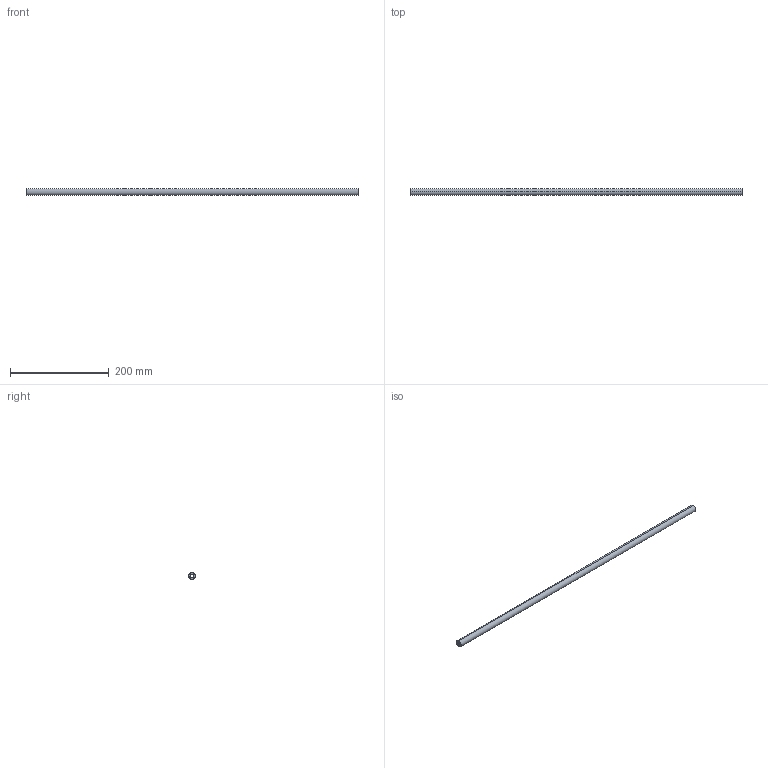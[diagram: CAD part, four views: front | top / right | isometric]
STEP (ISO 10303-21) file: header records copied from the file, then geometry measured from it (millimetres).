
FILE_DESCRIPTION (( 'STEP AP214' ), '1' );
FILE_NAME ('SyncronisationsstangeXP_KAB_800_16.step', '2009-11-24T08:53:25', ( 'Grass' ), ( 'Grass GmbH' ), 'SwSTEP 2.0', 'SolidWorks 2009', '' );
FILE_SCHEMA (( 'AUTOMOTIVE_DESIGN' ));
Length unit declared in the file: millimetre
Products named in the file (1): SyncronisationsstangeXP_KAB_800_16
Bounding box: 671 x 14 x 14 mm (x, y, z)
Volume: 72555 mm3; surface area: 46826 mm2
Topology: 1 solids, 1 shells, 15 faces, 39 edges, 26 vertices
Faces by surface type: cylinder 11, plane 4
Entity records: 513 total; most frequent: DIRECTION 93, CARTESIAN_POINT 81, ORIENTED_EDGE 78, EDGE_CURVE 39, AXIS2_PLACEMENT_3D 38, VERTEX_POINT 26, CIRCLE 22, VECTOR 17
